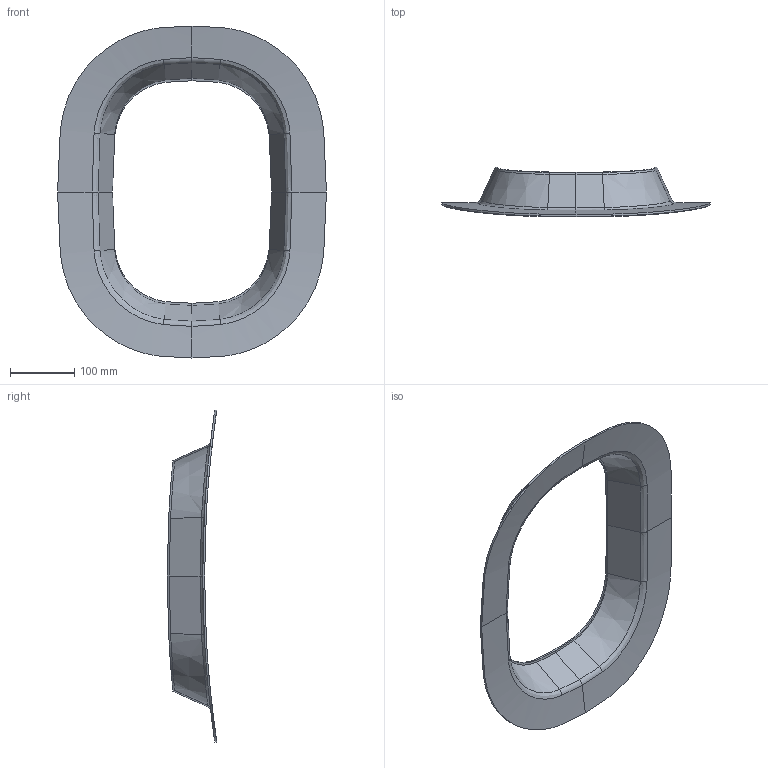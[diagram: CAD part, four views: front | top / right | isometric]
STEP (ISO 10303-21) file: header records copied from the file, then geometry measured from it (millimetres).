
FILE_DESCRIPTION(('Open CASCADE Model'),'2;1');
FILE_NAME('Open CASCADE Shape Model','2026-10-14T14:24:18',('Author'),( 'Open CASCADE'),'Open CASCADE STEP processor 7.8','Open CASCADE 7.8' ,'Unknown');
FILE_SCHEMA(('AUTOMOTIVE_DESIGN { 1 0 10303 214 1 1 1 1 }'));
Length unit declared in the file: millimetre
Products named in the file (1): Open CASCADE STEP translator 7.8 2
Bounding box: 417 x 76.84 x 515 mm (x, y, z)
Volume: 443798.7 mm3; surface area: 303555.8 mm2
Topology: 1 solids, 1 shells, 100 faces, 230 edges, 130 vertices
Faces by surface type: cylinder 40, cone 36, bspline 24
Entity records: 15464 total; most frequent: CARTESIAN_POINT 11751, ORIENTED_EDGE 460, PCURVE 460, DEFINITIONAL_REPRESENTATION 460, DIRECTION 406, B_SPLINE_CURVE_WITH_KNOTS 382, LINE 236, VECTOR 236
